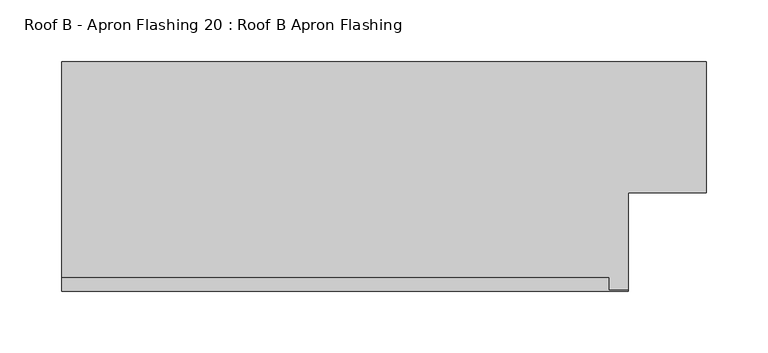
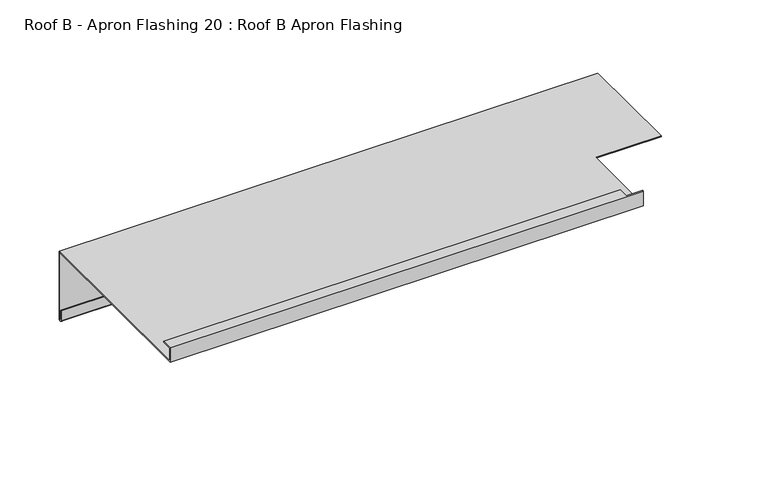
"""IFC4 building model written with IfcOpenShell, lengths in millimetres: proxy geometry, Roof B - Apron Flashing 20 : Roof B Apron Flashing."""

from ifc_helpers import new_model, si_unit, frame, origin, place, context, project, spatial, polyline, circle_curve, source, transform, mapped, element, save
from ifc_brep_helpers import plane_surface, cylinder_surface, revolved_surface, advanced_brep


def roof_b_apron_flashing_20_roof_b_apron_flashing_f2a83171(model_context):
    return source(origin(), model_context, "Body", "AdvancedBrep", [
        advanced_brep(
        [(13580.5305854, -23648.7910321, -986.662203), (13580.5305854, -23648.7910321, -1055.0764166), (13580.5305854, -23649.7910321, -1055.0764166), (13580.5305854, -23649.7910321, -1045.1233066), (13580.5305854, -23650.7910321, -1045.1233066), (13580.5305854, -23650.7910321, -1055.0764166), (13580.5305854, -23647.7910321, -1055.0764166), (13580.5305854, -23647.7910321, -985.662203), (13580.5305854, -23754.2341805, -985.662203), (13580.5305854, -23754.2341805, -986.662203), (13057.2186679, -23647.7910321, -985.662203), (13057.2186679, -23647.7910321, -1055.0764166), (13057.2186679, -23650.7910321, -1055.0764166), (13057.2186679, -23650.7910321, -1045.1233066), (13057.2186679, -23649.7910321, -1045.1233066), (13057.2186679, -23649.7910321, -1055.0764166), (13057.2186679, -23648.7910321, -1055.0764166), (13057.2186679, -23648.7910321, -986.662203), (13057.2186679, -23834.2321624, -986.662203), (13057.2186679, -23834.2321624, -971.662203), (13057.2186679, -23823.1938498, -971.662203), (13057.2186679, -23823.1938498, -972.662203), (13057.2186679, -23833.2321624, -972.662203), (13057.2186679, -23833.2321624, -985.662203), (13517.2186679, -23833.2321624, -985.662203), (13517.2186679, -23754.2341805, -985.662203), (13517.2186679, -23754.2341805, -986.662203), (13517.2186679, -23834.2321624, -986.662203), (13501.0910924, -23833.2321624, -972.662203), (13501.0910924, -23833.2321624, -971.662203), (13517.2186679, -23833.2321624, -971.662203), (13501.0910924, -23823.1938498, -972.662203), (13501.0910924, -23823.1938498, -971.662203), (13517.2186679, -23834.2321624, -971.662203)],
        [
            (0, 1),
            (1, 2, circle_curve(frame((13580.5305854, -23649.2910321, -1055.0764166), z_axis=(-1.0, 0.0, 0.0), x_axis=(0.0, 0.0, 1.0)), 0.5)),
            (2, 3),
            (3, 4),
            (4, 5),
            (5, 6, circle_curve(frame((13580.5305854, -23649.2910321, -1055.0764166), z_axis=(1.0, 0.0, 0.0), x_axis=(0.0, 0.0, 1.0)), 1.5)),
            (6, 7),
            (7, 8),
            (8, 9),
            (9, 0),
            (10, 11),
            (11, 12, circle_curve(frame((13057.2186679, -23649.2910321, -1055.0764166), z_axis=(-1.0, 0.0, 0.0), x_axis=(0.0, 0.0, 1.0)), 1.5)),
            (12, 13),
            (13, 14),
            (14, 15),
            (15, 16, circle_curve(frame((13057.2186679, -23649.2910321, -1055.0764166), z_axis=(1.0, 0.0, 0.0), x_axis=(0.0, 0.0, 1.0)), 0.5)),
            (16, 17),
            (17, 18),
            (18, 19),
            (19, 20),
            (20, 21),
            (21, 22),
            (22, 23),
            (23, 10),
            (23, 24),
            (24, 25),
            (25, 8),
            (7, 10),
            (17, 0),
            (9, 26),
            (26, 27),
            (27, 18),
            (16, 1),
            (6, 11),
            (22, 28),
            (28, 29),
            (29, 30),
            (30, 24),
            (21, 31),
            (31, 28),
            (20, 32),
            (32, 31),
            (19, 33),
            (33, 30),
            (29, 32),
            (27, 33),
            (15, 2),
            (14, 3),
            (13, 4),
            (12, 5),
            (26, 25),
        ],
        [
            plane_surface(frame((13580.5305854, -23842.2642556, -1042.7388515), z_axis=(1.0, 0.0, 0.0), x_axis=(0.0, 1.0, 0.0))),
            plane_surface(frame((13057.2186679, -23842.2642556, -1042.7388515), z_axis=(-1.0, 0.0, 0.0), x_axis=(0.0, 1.0, 0.0))),
            plane_surface(frame((13580.5305854, -23647.7910321, -985.662203), z_axis=(0.0, 0.0, 1.0), x_axis=(-1.0, 0.0, 0.0))),
            plane_surface(frame((13580.5305854, -23834.2321624, -986.662203), z_axis=(0.0, 0.0, -1.0), x_axis=(-1.0, 0.0, 0.0))),
            plane_surface(frame((13580.5305854, -23648.7910321, -986.662203), z_axis=(0.0, -1.0, 0.0), x_axis=(-1.0, 0.0, 0.0))),
            plane_surface(frame((13580.5305854, -23647.7910321, -1055.0764166), z_axis=(0.0, 1.0, 0.0), x_axis=(-1.0, 0.0, 0.0))),
            plane_surface(frame((13580.5305854, -23833.2321624, -985.662203), z_axis=(0.0, 1.0, 0.0), x_axis=(-1.0, 0.0, 0.0))),
            plane_surface(frame((13580.5305854, -23833.2321624, -972.662203), z_axis=(0.0, 0.0, -1.0), x_axis=(-1.0, 0.0, 0.0))),
            plane_surface(frame((13580.5305854, -23823.1938498, -972.662203), z_axis=(0.0, 1.0, 0.0), x_axis=(-1.0, 0.0, 0.0))),
            plane_surface(frame((13580.5305854, -23823.1938498, -971.662203), z_axis=(0.0, 0.0, 1.0), x_axis=(-1.0, 0.0, 0.0))),
            plane_surface(frame((13580.5305854, -23834.2321624, -971.662203), z_axis=(0.0, -1.0, 0.0), x_axis=(-1.0, 0.0, 0.0))),
            revolved_surface(polyline([(13057.2186679, -23649.2910321, -1054.5764166), (13580.5305854, -23649.2910321, -1054.5764166)]), (13580.5305854, -23649.2910321, -1055.0764166), (-1.0, 0.0, 0.0)),
            plane_surface(frame((13580.5305854, -23649.7910321, -1055.0764166), z_axis=(0.0, 1.0, 0.0), x_axis=(-1.0, 0.0, 0.0))),
            plane_surface(frame((13580.5305854, -23649.7910321, -1045.1233066), z_axis=(0.0, 0.0, 1.0), x_axis=(-1.0, 0.0, 0.0))),
            plane_surface(frame((13580.5305854, -23650.7910321, -1045.1233066), z_axis=(0.0, -1.0, 0.0), x_axis=(-1.0, 0.0, 0.0))),
            cylinder_surface(frame((13580.5305854, -23649.2910321, -1055.0764166), z_axis=(1.0, 0.0, 0.0), x_axis=(0.0, 0.0, 1.0)), 1.5),
            plane_surface(frame((13517.2186679, -23754.2341805, -1079.9089722), z_axis=(1.0, 0.0, 0.0), x_axis=(0.0, -0.9659258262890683, 0.25881904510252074))),
            plane_surface(frame((13517.2186679, -23754.2341805, -852.4830665), z_axis=(0.0, -1.0, 0.0), x_axis=(1.0, 0.0, 0.0))),
            plane_surface(frame((13501.0910924, -23833.2321117, -884.3834078), z_axis=(1.0, 0.0, 0.0), x_axis=(0.0, 0.0, -1.0))),
        ],
        [
            (0, [[1, 2, 3, 4, 5, 6, 7, 8, 9, 10]]),
            (1, [[11, 12, 13, 14, 15, 16, 17, 18, 19, 20, 21, 22, 23, 24]]),
            (2, [[-24, 25, 26, 27, -8, 28]]),
            (3, [[-18, 29, -10, 30, 31, 32]]),
            (4, [[-1, -29, -17, 33]]),
            (5, [[-7, 34, -11, -28]]),
            (6, [[-23, 35, 36, 37, 38, -25]]),
            (7, [[-22, 39, 40, -35]]),
            (8, [[-21, 41, 42, -39]]),
            (9, [[-20, 43, 44, -37, 45, -41]]),
            (10, [[-19, -32, 46, -43]]),
            (11, [[-2, -33, -16, 47]]),
            (12, [[-3, -47, -15, 48]]),
            (13, [[-4, -48, -14, 49]]),
            (14, [[-5, -49, -13, 50]]),
            (15, [[-6, -50, -12, -34]]),
            (16, [[51, -26, -38, -44, -46, -31]]),
            (17, [[-51, -30, -9, -27]]),
            (18, [[-36, -40, -42, -45]]),
        ],
    ),
    ])


if __name__ == "__main__":
    model = new_model("IFC4")
    model_context = context("Model", 3, world=origin())
    ifc_project = project(units=[si_unit("LENGTHUNIT", "METRE", prefix="MILLI")], contexts=[model_context])
    site = spatial("IfcSite", under=ifc_project)
    building = spatial("IfcBuilding", under=site)
    placement = place(None, origin())
    roof_b_apron_flashing_20_roof_b_apron_flashing_shape = roof_b_apron_flashing_20_roof_b_apron_flashing_f2a83171(model_context)
    element("IfcBuildingElementProxy", 1, Name="Roof B - Apron Flashing 20 : Roof B Apron Flashing", ObjectType="Roof B - Apron Flashing 20 : Roof B Apron Flashing", at=placement, inside=building, context=model_context, shape_type="MappedRepresentation", body=[
        mapped(roof_b_apron_flashing_20_roof_b_apron_flashing_shape, transform((0.0, 0.0, 0.0), x_axis=(1.0, 0.0, 0.0), y_axis=(0.0, 1.0, 0.0), z_axis=(0.0, 0.0, 1.0))),
    ])
    save(model, "model.ifc")
